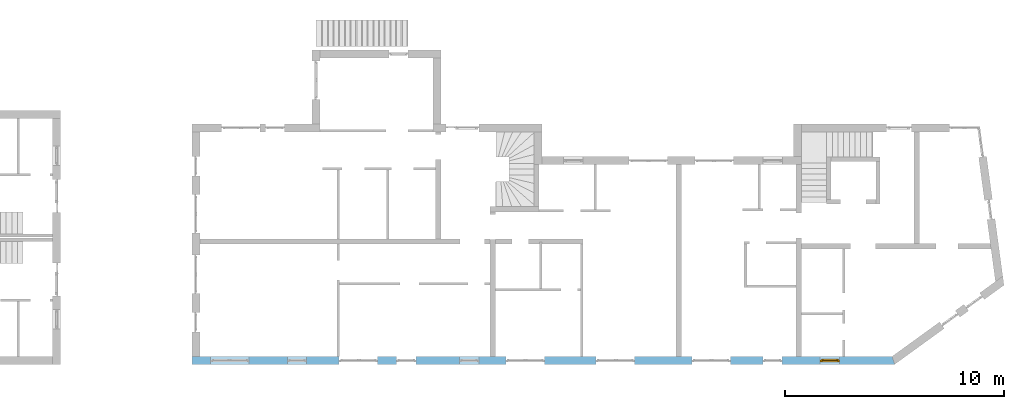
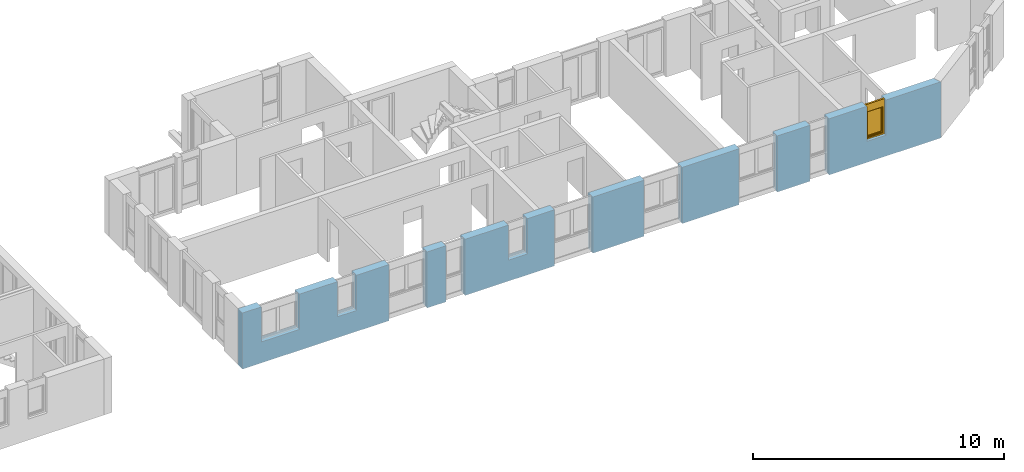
# One storey, part 22 of 41: 1 window, 10 openings, plus 1 element that does not belong to this part.
"""IFC2X3 building model written with IfcOpenShell, lengths in millimetres."""

from ifc_helpers import new_model, entity, si_unit, converted_unit, frame, frame_2d, origin, origin_with_axes, place, context, subcontext, project, spatial, polyline, rectangle, outline, extrude, faceted_brep, material, layer, layer_set, layer_usage, type_object, element, fill, save


model = new_model("IFC2X3")

# Units and contexts
model_context = context("Model", 3, precision=1e-05, world=origin())
body_context = subcontext(model_context, "Body", "Model", "MODEL_VIEW")
ifc_project = project(units=[si_unit("LENGTHUNIT", "METRE", prefix="MILLI"), converted_unit("PLANEANGLEUNIT", "DEGREE", entity("IfcPlaneAngleMeasure", 0.0174532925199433), si_unit("PLANEANGLEUNIT", "RADIAN"), dimensions=[0, 0, 0, 0, 0, 0, 0]), si_unit("AREAUNIT", "SQUARE_METRE"), si_unit("VOLUMEUNIT", "CUBIC_METRE")], contexts=[model_context])

# Building, storey
building_placement = place(None, origin())
building = spatial("IfcBuilding", under=ifc_project, at=building_placement, Name="Gebäude", CompositionType="ELEMENT")
storey_placement = place(building_placement, frame((0.0, 0.0, -200.0), z_axis=(0.0, 0.0, 1.0), x_axis=(1.0, 0.0, 0.0)))
storey = spatial("IfcBuildingStorey", under=building, at=storey_placement, Name="EG.- Grundriss", CompositionType="ELEMENT", Elevation=-200.0)

# Wall, openings, window
ifc_material_1 = material(Name="Poroton")
ifc_layer = layer(ifc_material_1, 365.0000000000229)
ifc_layer_set = layer_set([ifc_layer])
ifc_layer_usage = layer_usage(ifc_layer_set, "AXIS2", "POSITIVE", 0.0)
wall_placement = place(storey_placement, frame((148357.7928067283, 125274.8877324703, 0.0), z_axis=(0.0, 0.0, 1.0), x_axis=(1.0, -2.749268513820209e-11, 0.0)))
wall = element("IfcWallStandardCase", 1, at=wall_placement, inside=storey, material=ifc_layer_usage, Name="<Unnamed Element>", context=body_context, shape_type="SweptSolid", body=[
    extrude(outline(polyline([(0.0, 0.0), (32144.99999877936, 0.0), (32026.74038666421, 365.0000000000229), (-1.003483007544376e-08, 365.0), (0.0, 0.0)])), origin_with_axes(), (0.0, 0.0, 1.0), 2730.0),
])
opening_1_placement = place(wall_placement, frame((28740.29648749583, -1.103025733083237e-10, 1020.0), z_axis=(0.0, 1.0, 0.0), x_axis=(0.0, 0.0, 1.0)))
opening_1 = element("IfcOpeningElement", 2, at=opening_1_placement, cuts=wall, Name="Fensteröffnung", ObjectType="Opening", context=body_context, shape_type="SweptSolid", body=[
    extrude(rectangle(XDim=1710.0, YDim=885.0, at=frame_2d((855.0, 442.5), x_axis=(1.0, 0.0))), origin_with_axes(), (0.0, 0.0, 1.0), 365.0000000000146),
])
opening_2_placement = place(wall_placement, frame((26115.29648749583, -1.048456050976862e-10, 0.0), z_axis=(0.0, 1.0, 0.0), x_axis=(0.0, 0.0, 1.0)))
element("IfcOpeningElement", 3, at=opening_2_placement, cuts=wall, Name="Fensteröffnung", ObjectType="Opening", context=body_context, shape_type="SweptSolid", body=[
    extrude(rectangle(XDim=2730.0, YDim=885.0, at=frame_2d((1365.0, 442.5), x_axis=(1.0, 0.0))), origin_with_axes(), (0.0, 0.0, 1.0), 365.0000000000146),
])
opening_3_placement = place(wall_placement, frame((22865.29648749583, -7.937975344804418e-11, 0.0), z_axis=(0.0, 1.0, 0.0), x_axis=(0.0, 0.0, 1.0)))
element("IfcOpeningElement", 4, at=opening_3_placement, cuts=wall, Name="Fensteröffnung", ObjectType="Opening", context=body_context, shape_type="SweptSolid", body=[
    extrude(rectangle(XDim=2730.0, YDim=1760.0, at=frame_2d((1365.0, 880.0), x_axis=(1.0, 0.0))), origin_with_axes(), (0.0, 0.0, 1.0), 365.0000000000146),
])
opening_4_placement = place(wall_placement, frame((18490.51063065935, -4.984640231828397e-11, 0.0), z_axis=(0.0, 1.0, 0.0), x_axis=(0.0, 0.0, 1.0)))
element("IfcOpeningElement", 5, at=opening_4_placement, cuts=wall, Name="Fensteröffnung", ObjectType="Opening", context=body_context, shape_type="SweptSolid", body=[
    extrude(rectangle(XDim=2730.0, YDim=1760.0, at=frame_2d((1365.0, 880.0), x_axis=(1.0, 0.0))), origin_with_axes(), (0.0, 0.0, 1.0), 365.0000000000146),
])
opening_5_placement = place(wall_placement, frame((14365.26291871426, -7.302655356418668e-11, 0.0), z_axis=(0.0, 1.0, 0.0), x_axis=(0.0, 0.0, 1.0)))
element("IfcOpeningElement", 6, at=opening_5_placement, cuts=wall, Name="Fensteröffnung", ObjectType="Opening", context=body_context, shape_type="SweptSolid", body=[
    extrude(rectangle(XDim=2730.0, YDim=1760.0, at=frame_2d((1365.0, 880.0), x_axis=(1.0, 0.0))), origin_with_axes(), (0.0, 0.0, 1.0), 365.0000000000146),
])
opening_6_placement = place(wall_placement, frame((12240.0, -5.296897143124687e-11, 1020.0), z_axis=(0.0, 1.0, 0.0), x_axis=(0.0, 0.0, 1.0)))
element("IfcOpeningElement", 7, at=opening_6_placement, cuts=wall, Name="Fensteröffnung", ObjectType="Opening", context=body_context, shape_type="SweptSolid", body=[
    extrude(rectangle(XDim=1710.0, YDim=885.0, at=frame_2d((855.0, 442.5), x_axis=(1.0, 0.0))), origin_with_axes(), (0.0, 0.0, 1.0), 365.0000000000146),
])
opening_7_placement = place(wall_placement, frame((9365.0, -3.659806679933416e-11, 0.0), z_axis=(0.0, 1.0, 0.0), x_axis=(0.0, 0.0, 1.0)))
element("IfcOpeningElement", 8, at=opening_7_placement, cuts=wall, Name="Fensteröffnung", ObjectType="Opening", context=body_context, shape_type="SweptSolid", body=[
    extrude(rectangle(XDim=2730.0, YDim=885.0, at=frame_2d((1365.0, 442.5), x_axis=(1.0, 0.0))), origin_with_axes(), (0.0, 0.0, 1.0), 365.0000000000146),
])
opening_8_placement = place(wall_placement, frame((6740.0, -3.114109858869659e-11, 0.0), z_axis=(0.0, 1.0, 0.0), x_axis=(0.0, 0.0, 1.0)))
element("IfcOpeningElement", 9, at=opening_8_placement, cuts=wall, Name="Fensteröffnung", ObjectType="Opening", context=body_context, shape_type="SweptSolid", body=[
    extrude(rectangle(XDim=2730.0, YDim=1760.0, at=frame_2d((1365.0, 880.0), x_axis=(1.0, 0.0))), origin_with_axes(), (0.0, 0.0, 1.0), 365.0000000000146),
])
opening_9_placement = place(wall_placement, frame((4365.0, -7.494236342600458e-12, 1020.0), z_axis=(0.0, 1.0, 0.0), x_axis=(0.0, 0.0, 1.0)))
element("IfcOpeningElement", 10, at=opening_9_placement, cuts=wall, Name="Fensteröffnung", ObjectType="Opening", context=body_context, shape_type="SweptSolid", body=[
    extrude(rectangle(XDim=1710.0, YDim=885.0, at=frame_2d((855.0, 442.5), x_axis=(1.0, 0.0))), origin_with_axes(), (0.0, 0.0, 1.0), 365.0000000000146),
])
opening_10_placement = place(wall_placement, frame((865.0, -2.182787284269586e-13, 1020.0), z_axis=(0.0, 1.0, 0.0), x_axis=(0.0, 0.0, 1.0)))
element("IfcOpeningElement", 11, at=opening_10_placement, cuts=wall, Name="Fensteröffnung", ObjectType="Opening", context=body_context, shape_type="SweptSolid", body=[
    extrude(rectangle(XDim=1710.0, YDim=1760.0, at=frame_2d((854.9999999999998, 880.0), x_axis=(1.0, 0.0))), origin_with_axes(), (0.0, 0.0, 1.0), 365.0000000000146),
])
ifc_material_2 = material()
window_style = type_object("IfcWindowStyle", Name="Fenster", ConstructionType="NOTDEFINED", OperationType="USERDEFINED", ParameterTakesPrecedence=False, Sizeable=False)
window_placement = place(opening_1_placement, frame((0.0, 0.0, 0.0), z_axis=(1.0, 0.0, 0.0), x_axis=(0.0, 1.0, 0.0)))
window = element("IfcWindow", 12, at=window_placement, inside=storey, type_object=window_style, material=ifc_material_2, Name="Fenster", OverallHeight=1710.0, OverallWidth=885.0, context=body_context, shape_type="Brep", body=[
    faceted_brep([(-1.221113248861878e-08, 200.000000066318, 1710.0), (-1.221113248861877e-08, 200.0000000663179, -2.449293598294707e-15), (69.99999998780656, 200.0000000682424, -2.449293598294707e-15), (69.99999998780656, 200.0000000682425, 1710.0), (-1.001171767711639e-08, 120.0000000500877, 2.449293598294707e-15), (-1.00117176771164e-08, 120.0000000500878, 1710.0), (69.99999999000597, 120.0000000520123, 1710.0), (69.99999999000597, 120.0000000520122, 2.449293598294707e-15), (-1.221113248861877e-08, 200.0000000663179, -2.449293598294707e-15), (-1.221113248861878e-08, 200.000000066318, 1710.0), (-1.00117176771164e-08, 120.0000000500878, 1710.0), (-1.001171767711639e-08, 120.0000000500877, 2.449293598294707e-15), (69.99999998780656, 200.0000000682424, -2.449293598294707e-15), (-1.221113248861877e-08, 200.0000000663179, -2.449293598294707e-15), (-1.001171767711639e-08, 120.0000000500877, 2.449293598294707e-15), (69.99999999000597, 120.0000000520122, 2.449293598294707e-15), (69.99999998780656, 200.0000000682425, 1710.0), (69.99999998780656, 200.0000000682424, -2.449293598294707e-15), (69.99999999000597, 120.0000000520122, 2.449293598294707e-15), (69.99999999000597, 120.0000000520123, 1710.0), (-1.221113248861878e-08, 200.000000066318, 1710.0), (69.99999998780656, 200.0000000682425, 1710.0), (69.99999999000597, 120.0000000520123, 1710.0), (-1.00117176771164e-08, 120.0000000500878, 1710.0)], [[[0, 1, 2, 3]], [[4, 5, 6, 7]], [[8, 9, 10, 11]], [[12, 13, 14, 15]], [[16, 17, 18, 19]], [[20, 21, 22, 23]]], orient=[[False], [False], [False], [False], [False], [False]]),
    faceted_brep([(814.9999999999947, 200.0000000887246, 1710.0), (814.9999999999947, 200.0000000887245, -2.449293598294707e-15), (885.0000000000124, 200.0000000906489, -2.449293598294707e-15), (885.0000000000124, 200.0000000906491, 1710.0), (815.000000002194, 120.0000000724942, 2.449293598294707e-15), (815.000000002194, 120.0000000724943, 1710.0), (885.0000000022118, 120.0000000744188, 1710.0), (885.0000000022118, 120.0000000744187, 2.449293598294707e-15), (814.9999999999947, 200.0000000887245, -2.449293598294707e-15), (814.9999999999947, 200.0000000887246, 1710.0), (815.000000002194, 120.0000000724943, 1710.0), (815.000000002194, 120.0000000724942, 2.449293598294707e-15), (885.0000000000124, 200.0000000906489, -2.449293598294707e-15), (814.9999999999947, 200.0000000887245, -2.449293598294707e-15), (815.000000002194, 120.0000000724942, 2.449293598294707e-15), (885.0000000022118, 120.0000000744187, 2.449293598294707e-15), (885.0000000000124, 200.0000000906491, 1710.0), (885.0000000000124, 200.0000000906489, -2.449293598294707e-15), (885.0000000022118, 120.0000000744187, 2.449293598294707e-15), (885.0000000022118, 120.0000000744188, 1710.0), (814.9999999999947, 200.0000000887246, 1710.0), (885.0000000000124, 200.0000000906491, 1710.0), (885.0000000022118, 120.0000000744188, 1710.0), (815.000000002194, 120.0000000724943, 1710.0)], [[[0, 1, 2, 3]], [[4, 5, 6, 7]], [[8, 9, 10, 11]], [[12, 13, 14, 15]], [[16, 17, 18, 19]], [[20, 21, 22, 23]]], orient=[[False], [False], [False], [False], [False], [False]]),
    faceted_brep([(69.99999998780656, 200.0000000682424, 70.0), (69.99999998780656, 200.0000000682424, -2.449293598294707e-15), (814.9999999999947, 200.0000000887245, -2.449293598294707e-15), (814.9999999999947, 200.0000000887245, 70.0), (69.99999999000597, 120.0000000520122, 2.449293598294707e-15), (69.99999999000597, 120.0000000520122, 70.0), (815.000000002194, 120.0000000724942, 70.0), (815.000000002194, 120.0000000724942, 2.449293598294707e-15), (69.99999998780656, 200.0000000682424, -2.449293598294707e-15), (69.99999998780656, 200.0000000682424, 70.0), (69.99999999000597, 120.0000000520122, 70.0), (69.99999999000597, 120.0000000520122, 2.449293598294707e-15), (814.9999999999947, 200.0000000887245, -2.449293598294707e-15), (69.99999998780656, 200.0000000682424, -2.449293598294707e-15), (69.99999999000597, 120.0000000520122, 2.449293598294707e-15), (815.000000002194, 120.0000000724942, 2.449293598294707e-15), (814.9999999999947, 200.0000000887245, 70.0), (814.9999999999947, 200.0000000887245, -2.449293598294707e-15), (815.000000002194, 120.0000000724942, 2.449293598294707e-15), (815.000000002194, 120.0000000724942, 70.0), (69.99999998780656, 200.0000000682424, 70.0), (814.9999999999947, 200.0000000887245, 70.0), (815.000000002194, 120.0000000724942, 70.0), (69.99999999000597, 120.0000000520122, 70.0)], [[[0, 1, 2, 3]], [[4, 5, 6, 7]], [[8, 9, 10, 11]], [[12, 13, 14, 15]], [[16, 17, 18, 19]], [[20, 21, 22, 23]]], orient=[[False], [False], [False], [False], [False], [False]]),
    faceted_brep([(69.99999998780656, 200.0000000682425, 1710.0), (69.99999998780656, 200.0000000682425, 1340.0), (814.9999999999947, 200.0000000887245, 1340.0), (814.9999999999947, 200.0000000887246, 1710.0), (69.99999999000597, 120.0000000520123, 1340.0), (69.99999999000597, 120.0000000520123, 1710.0), (815.000000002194, 120.0000000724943, 1710.0), (815.000000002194, 120.0000000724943, 1340.0), (69.99999998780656, 200.0000000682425, 1340.0), (69.99999998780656, 200.0000000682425, 1710.0), (69.99999999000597, 120.0000000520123, 1710.0), (69.99999999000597, 120.0000000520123, 1340.0), (814.9999999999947, 200.0000000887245, 1340.0), (69.99999998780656, 200.0000000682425, 1340.0), (69.99999999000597, 120.0000000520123, 1340.0), (815.000000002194, 120.0000000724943, 1340.0), (814.9999999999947, 200.0000000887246, 1710.0), (814.9999999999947, 200.0000000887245, 1340.0), (815.000000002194, 120.0000000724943, 1340.0), (815.000000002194, 120.0000000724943, 1710.0), (69.99999998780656, 200.0000000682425, 1710.0), (814.9999999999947, 200.0000000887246, 1710.0), (815.000000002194, 120.0000000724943, 1710.0), (69.99999999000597, 120.0000000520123, 1710.0)], [[[0, 1, 2, 3]], [[4, 5, 6, 7]], [[8, 9, 10, 11]], [[12, 13, 14, 15]], [[16, 17, 18, 19]], [[20, 21, 22, 23]]], orient=[[False], [False], [False], [False], [False], [False]]),
    faceted_brep([(49.9999999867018, 240.0000000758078, 1360.0), (49.9999999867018, 240.0000000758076, 50.0), (119.9999999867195, 240.0000000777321, 50.0), (119.9999999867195, 240.0000000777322, 1360.0), (49.99999998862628, 170.0000000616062, 50.00000000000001), (49.99999998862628, 170.0000000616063, 1360.0), (119.999999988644, 170.0000000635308, 1360.0), (119.999999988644, 170.0000000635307, 50.00000000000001), (49.9999999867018, 240.0000000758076, 50.0), (49.9999999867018, 240.0000000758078, 1360.0), (49.99999998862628, 170.0000000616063, 1360.0), (49.99999998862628, 170.0000000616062, 50.00000000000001), (119.9999999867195, 240.0000000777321, 50.0), (49.9999999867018, 240.0000000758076, 50.0), (49.99999998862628, 170.0000000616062, 50.00000000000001), (119.999999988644, 170.0000000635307, 50.00000000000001), (119.9999999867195, 240.0000000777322, 1360.0), (119.9999999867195, 240.0000000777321, 50.0), (119.999999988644, 170.0000000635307, 50.00000000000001), (119.999999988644, 170.0000000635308, 1360.0), (49.9999999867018, 240.0000000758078, 1360.0), (119.9999999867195, 240.0000000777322, 1360.0), (119.999999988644, 170.0000000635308, 1360.0), (49.99999998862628, 170.0000000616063, 1360.0)], [[[0, 1, 2, 3]], [[4, 5, 6, 7]], [[8, 9, 10, 11]], [[12, 13, 14, 15]], [[16, 17, 18, 19]], [[20, 21, 22, 23]]], orient=[[False], [False], [False], [False], [False], [False]]),
    faceted_brep([(764.9999999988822, 240.000000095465, 1360.0), (764.9999999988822, 240.0000000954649, 50.0), (834.9999999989, 240.0000000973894, 50.0), (834.9999999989, 240.0000000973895, 1360.0), (765.0000000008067, 170.0000000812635, 50.00000000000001), (765.0000000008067, 170.0000000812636, 1360.0), (835.0000000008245, 170.0000000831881, 1360.0), (835.0000000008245, 170.000000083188, 50.00000000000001), (764.9999999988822, 240.0000000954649, 50.0), (764.9999999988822, 240.000000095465, 1360.0), (765.0000000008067, 170.0000000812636, 1360.0), (765.0000000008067, 170.0000000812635, 50.00000000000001), (834.9999999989, 240.0000000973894, 50.0), (764.9999999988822, 240.0000000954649, 50.0), (765.0000000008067, 170.0000000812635, 50.00000000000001), (835.0000000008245, 170.000000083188, 50.00000000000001), (834.9999999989, 240.0000000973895, 1360.0), (834.9999999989, 240.0000000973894, 50.0), (835.0000000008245, 170.000000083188, 50.00000000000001), (835.0000000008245, 170.0000000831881, 1360.0), (764.9999999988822, 240.000000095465, 1360.0), (834.9999999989, 240.0000000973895, 1360.0), (835.0000000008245, 170.0000000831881, 1360.0), (765.0000000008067, 170.0000000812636, 1360.0)], [[[0, 1, 2, 3]], [[4, 5, 6, 7]], [[8, 9, 10, 11]], [[12, 13, 14, 15]], [[16, 17, 18, 19]], [[20, 21, 22, 23]]], orient=[[False], [False], [False], [False], [False], [False]]),
    faceted_brep([(119.9999999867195, 240.0000000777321, 120.0), (119.9999999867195, 240.0000000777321, 50.0), (764.9999999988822, 240.0000000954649, 50.0), (764.9999999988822, 240.0000000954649, 120.0), (119.999999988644, 170.0000000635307, 50.00000000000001), (119.999999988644, 170.0000000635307, 120.0), (765.0000000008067, 170.0000000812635, 120.0), (765.0000000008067, 170.0000000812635, 50.00000000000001), (119.9999999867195, 240.0000000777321, 50.0), (119.9999999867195, 240.0000000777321, 120.0), (119.999999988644, 170.0000000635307, 120.0), (119.999999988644, 170.0000000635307, 50.00000000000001), (764.9999999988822, 240.0000000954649, 50.0), (119.9999999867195, 240.0000000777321, 50.0), (119.999999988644, 170.0000000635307, 50.00000000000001), (765.0000000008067, 170.0000000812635, 50.00000000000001), (764.9999999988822, 240.0000000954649, 120.0), (764.9999999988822, 240.0000000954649, 50.0), (765.0000000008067, 170.0000000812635, 50.00000000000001), (765.0000000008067, 170.0000000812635, 120.0), (119.9999999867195, 240.0000000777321, 120.0), (764.9999999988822, 240.0000000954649, 120.0), (765.0000000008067, 170.0000000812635, 120.0), (119.999999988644, 170.0000000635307, 120.0)], [[[0, 1, 2, 3]], [[4, 5, 6, 7]], [[8, 9, 10, 11]], [[12, 13, 14, 15]], [[16, 17, 18, 19]], [[20, 21, 22, 23]]], orient=[[False], [False], [False], [False], [False], [False]]),
    faceted_brep([(119.9999999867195, 240.0000000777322, 1360.0), (119.9999999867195, 240.0000000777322, 1290.0), (764.9999999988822, 240.000000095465, 1290.0), (764.9999999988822, 240.000000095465, 1360.0), (119.999999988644, 170.0000000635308, 1290.0), (119.999999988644, 170.0000000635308, 1360.0), (765.0000000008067, 170.0000000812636, 1360.0), (765.0000000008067, 170.0000000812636, 1290.0), (119.9999999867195, 240.0000000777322, 1290.0), (119.9999999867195, 240.0000000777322, 1360.0), (119.999999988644, 170.0000000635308, 1360.0), (119.999999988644, 170.0000000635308, 1290.0), (764.9999999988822, 240.000000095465, 1290.0), (119.9999999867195, 240.0000000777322, 1290.0), (119.999999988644, 170.0000000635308, 1290.0), (765.0000000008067, 170.0000000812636, 1290.0), (764.9999999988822, 240.000000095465, 1360.0), (764.9999999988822, 240.000000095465, 1290.0), (765.0000000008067, 170.0000000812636, 1290.0), (765.0000000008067, 170.0000000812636, 1360.0), (119.9999999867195, 240.0000000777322, 1360.0), (764.9999999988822, 240.000000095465, 1360.0), (765.0000000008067, 170.0000000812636, 1360.0), (119.999999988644, 170.0000000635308, 1360.0)], [[[0, 1, 2, 3]], [[4, 5, 6, 7]], [[8, 9, 10, 11]], [[12, 13, 14, 15]], [[16, 17, 18, 19]], [[20, 21, 22, 23]]], orient=[[False], [False], [False], [False], [False], [False]]),
    faceted_brep([(119.9999999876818, 205.0000000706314, 120.0), (764.9999999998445, 205.0000000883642, 120.0), (764.9999999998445, 205.0000000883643, 1290.0), (119.9999999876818, 205.0000000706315, 1290.0), (119.9999999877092, 204.0000000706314, 120.0), (119.9999999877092, 204.0000000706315, 1290.0), (764.999999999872, 204.0000000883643, 1290.0), (764.999999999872, 204.0000000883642, 120.0), (119.9999999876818, 205.0000000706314, 120.0), (119.9999999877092, 204.0000000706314, 120.0), (764.999999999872, 204.0000000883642, 120.0), (764.9999999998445, 205.0000000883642, 120.0), (764.9999999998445, 205.0000000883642, 120.0), (764.999999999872, 204.0000000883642, 120.0), (764.999999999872, 204.0000000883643, 1290.0), (764.9999999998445, 205.0000000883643, 1290.0), (764.9999999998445, 205.0000000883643, 1290.0), (764.999999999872, 204.0000000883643, 1290.0), (119.9999999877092, 204.0000000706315, 1290.0), (119.9999999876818, 205.0000000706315, 1290.0), (119.9999999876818, 205.0000000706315, 1290.0), (119.9999999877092, 204.0000000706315, 1290.0), (119.9999999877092, 204.0000000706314, 120.0), (119.9999999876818, 205.0000000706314, 120.0)], [[[0, 1, 2, 3]], [[4, 5, 6, 7]], [[8, 9, 10, 11]], [[12, 13, 14, 15]], [[16, 17, 18, 19]], [[20, 21, 22, 23]]], orient=[[False], [False], [False], [False], [False], [False]]),
])
fill(opening_1, window)

save(model, "model.ifc")
